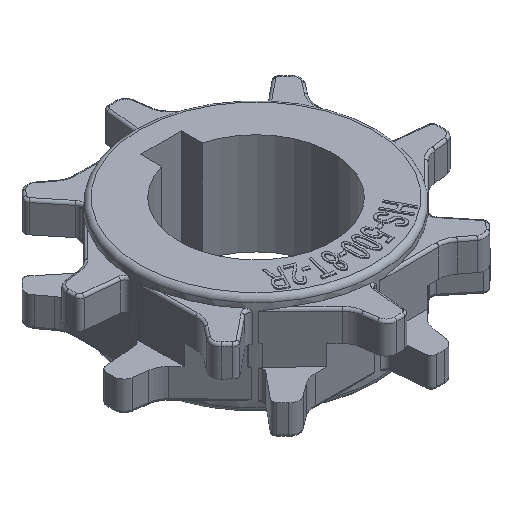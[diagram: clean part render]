
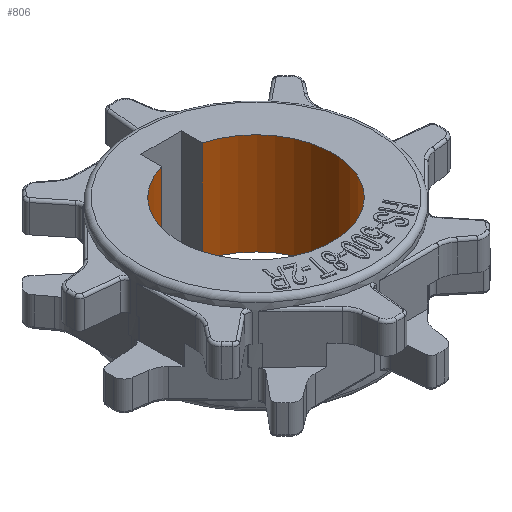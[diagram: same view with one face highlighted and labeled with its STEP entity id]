
A CAD part, isometric view. The second image highlights one B-rep face of the part: STEP entity #806.
In plain terms, the highlighted cylindrical face has radius 15.1 mm (diameter 30.2 mm), a partial arc.
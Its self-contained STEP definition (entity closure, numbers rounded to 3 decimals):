
#241=CYLINDRICAL_SURFACE('',#7768,15.1);
#371=FACE_OUTER_BOUND('',#2819,.T.);
#806=ADVANCED_FACE('',(#371),#241,.F.);
#1451=LINE('',#11283,#1966);
#1452=LINE('',#11287,#1967);
#1966=VECTOR('',#8577,1.);
#1967=VECTOR('',#8580,1.);
#2819=EDGE_LOOP('',(#3354,#3355,#3356,#3357));
#3354=ORIENTED_EDGE('',*,*,#6292,.F.);
#3355=ORIENTED_EDGE('',*,*,#6334,.F.);
#3356=ORIENTED_EDGE('',*,*,#6335,.T.);
#3357=ORIENTED_EDGE('',*,*,#6336,.T.);
#5574=VERTEX_POINT('',#10973);
#5575=VERTEX_POINT('',#10975);
#5616=VERTEX_POINT('',#11284);
#5617=VERTEX_POINT('',#11286);
#6292=EDGE_CURVE('',#5574,#5575,#7390,.T.);
#6334=EDGE_CURVE('',#5616,#5574,#1451,.T.);
#6335=EDGE_CURVE('',#5616,#5617,#7391,.T.);
#6336=EDGE_CURVE('',#5617,#5575,#1452,.T.);
#7390=CIRCLE('',#7765,15.1);
#7391=CIRCLE('',#7767,15.1);
#7765=AXIS2_PLACEMENT_3D('',#10974,#8571,#8572);
#7767=AXIS2_PLACEMENT_3D('',#11285,#8578,#8579);
#7768=AXIS2_PLACEMENT_3D('',#11288,#8581,#8582);
#8571=DIRECTION('',(0.,0.,-1.));
#8572=DIRECTION('',(1.,0.,0.));
#8577=DIRECTION('',(0.,0.,1.));
#8578=DIRECTION('',(0.,0.,-1.));
#8579=DIRECTION('',(1.,0.,0.));
#8580=DIRECTION('',(0.,0.,1.));
#8581=DIRECTION('',(0.,0.,-1.));
#8582=DIRECTION('',(-1.,0.,0.));
#10973=CARTESIAN_POINT('',(4.333,14.561,10.));
#10974=CARTESIAN_POINT('',(0.333,0.,10.));
#10975=CARTESIAN_POINT('',(-3.667,14.561,10.));
#11283=CARTESIAN_POINT('',(4.333,14.561,10.));
#11284=CARTESIAN_POINT('',(4.333,14.561,-10.));
#11285=CARTESIAN_POINT('',(0.333,0.,-10.));
#11286=CARTESIAN_POINT('',(-3.667,14.561,-10.));
#11287=CARTESIAN_POINT('',(-3.667,14.561,10.));
#11288=CARTESIAN_POINT('',(0.333,0.,10.));
